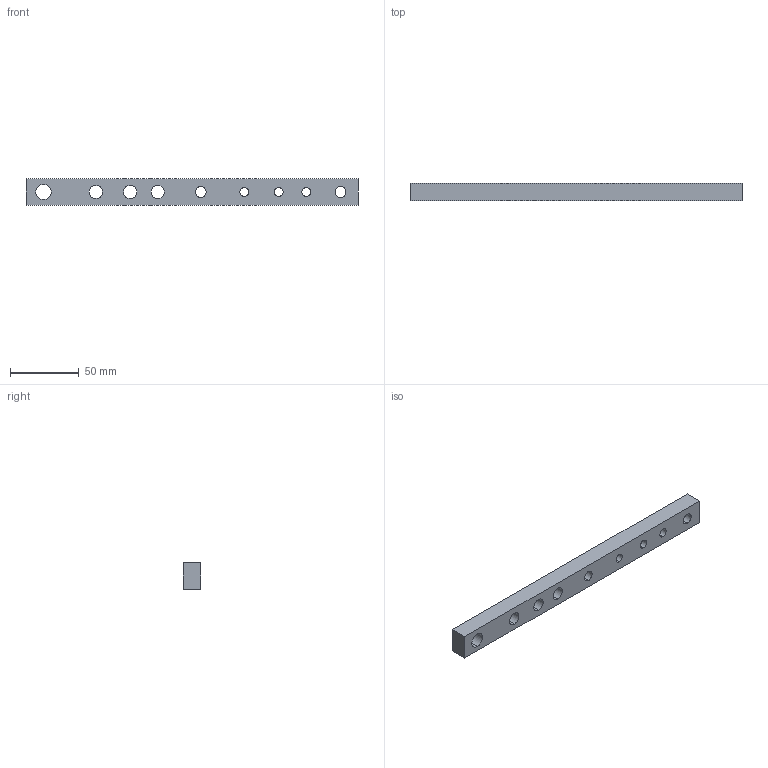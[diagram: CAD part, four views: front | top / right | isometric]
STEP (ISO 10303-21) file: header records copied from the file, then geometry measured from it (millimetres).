
FILE_DESCRIPTION (( 'STEP AP203' ), '1' );
FILE_NAME ('269-18-114.STEP', '2020-03-02T21:34:25', ( '' ), ( '' ), 'SwSTEP 2.0', 'SolidWorks 2017', '' );
FILE_SCHEMA (( 'CONFIG_CONTROL_DESIGN' ));
Length unit declared in the file: inch
Products named in the file (1): 269-18-114
Bounding box: 241.3 x 12.7 x 19.05 mm (x, y, z)
Volume: 51797 mm3; surface area: 17711.5 mm2
Topology: 1 solids, 1 shells, 34 faces, 86 edges, 54 vertices
Faces by surface type: cylinder 18, cone 10, plane 6
Entity records: 1151 total; most frequent: DIRECTION 202, CARTESIAN_POINT 175, ORIENTED_EDGE 172, EDGE_CURVE 86, AXIS2_PLACEMENT_3D 81, VERTEX_POINT 54, EDGE_LOOP 52, CIRCLE 46
